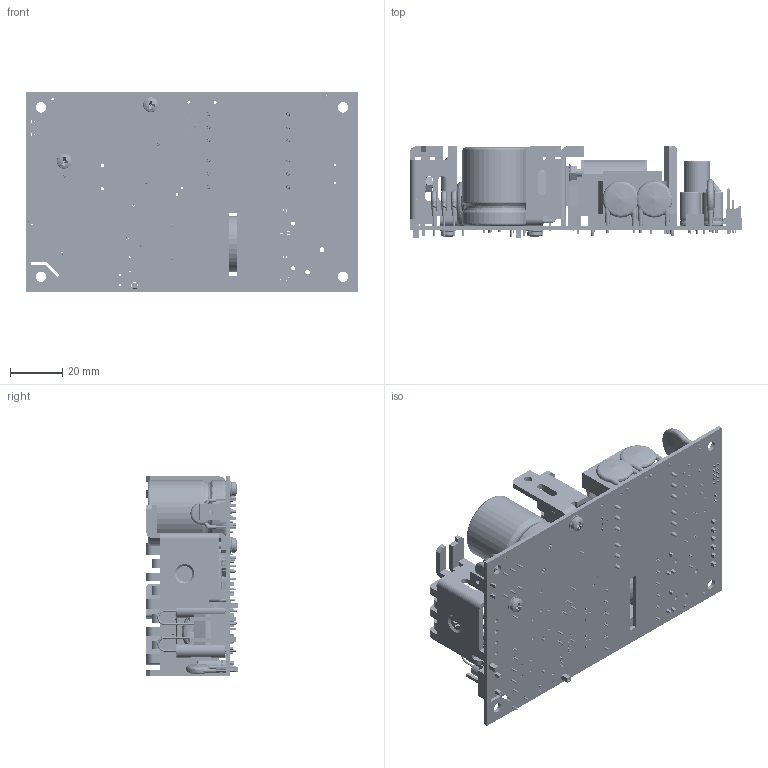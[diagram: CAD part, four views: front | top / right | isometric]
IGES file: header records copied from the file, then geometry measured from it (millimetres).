
Start section: SolidWorks IGES file using analytic representation for surfaces
Global section: file name: C:\PROJECTS\GCS250 solidworks\TEMP\GCS250PSXX.IGS; native system: SolidWorks 2012; preprocessor: SolidWorks 2012; author: KEVYOU; date: 140625.142418; units: inch
Bounding box: 127 x 34.92 x 76.21 mm (x, y, z)
Surface area: 75832.3 mm2 (no closed solid volume)
Topology: 0 solids, 0 shells, 3201 faces, 31446 edges, 31370 vertices
Faces by surface type: bspline 2002, revolution 1199
